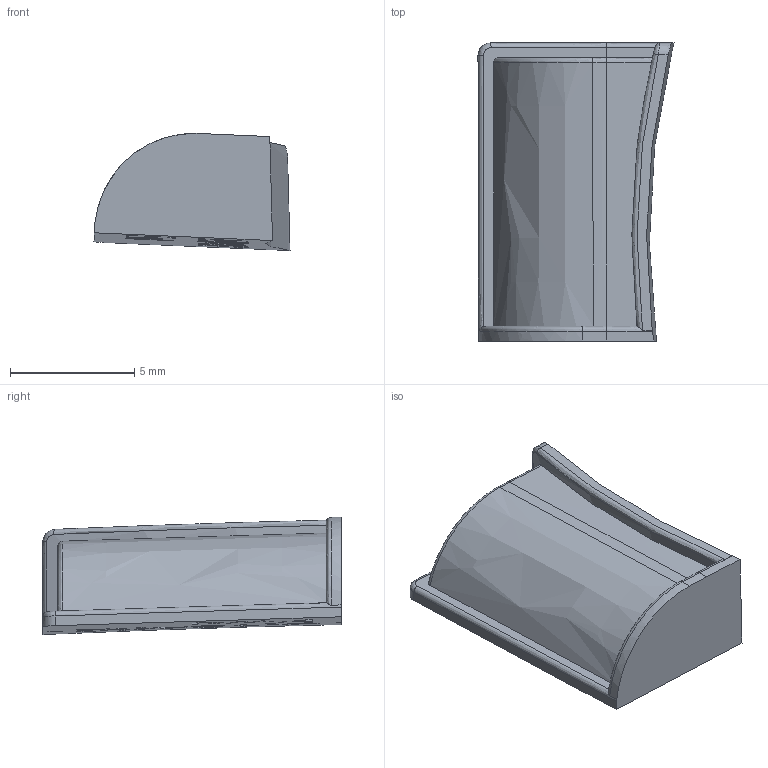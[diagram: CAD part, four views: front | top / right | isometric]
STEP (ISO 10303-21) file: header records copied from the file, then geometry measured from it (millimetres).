
FILE_DESCRIPTION(/* description */ ('','CAx-IF Rec.Pracs.---Representation and Presentation of Product Manufacturing Information (PMI)---4.0---2014-10-13'),/* implementation_level */ '2;1');
FILE_NAME(/* name */ '20elcothrottlecoveringa18482.step',/* time_stamp */ '2025-03-07T13:47:03+11:00',/* author */ (''),/* organization */ (''),/* preprocessor_version */ 'ST-DEVELOPER v20',/* originating_system */ 'Autodesk Translation Framework v13.20.0.188',/* authorisation */ '');
FILE_SCHEMA (('AP242_MANAGED_MODEL_BASED_3D_ENGINEERING_MIM_LF { 1 0 10303 442 1 1 4 }'));
Length unit declared in the file: millimetre
Products named in the file (1): Elco Throttle Deck Covering
Bounding box: 7.89 x 12.01 x 4.72 mm (x, y, z)
Volume: 238 mm3; surface area: 335.1 mm2
Topology: 1 solids, 1 shells, 232 faces, 661 edges, 439 vertices
Faces by surface type: bspline 158, plane 71, cylinder 3
Entity records: 12907 total; most frequent: CARTESIAN_POINT 8232, ORIENTED_EDGE 1322, EDGE_CURVE 661, B_SPLINE_CURVE_WITH_KNOTS 469, VERTEX_POINT 439, DIRECTION 348, EDGE_LOOP 240, FACE_OUTER_BOUND 232
